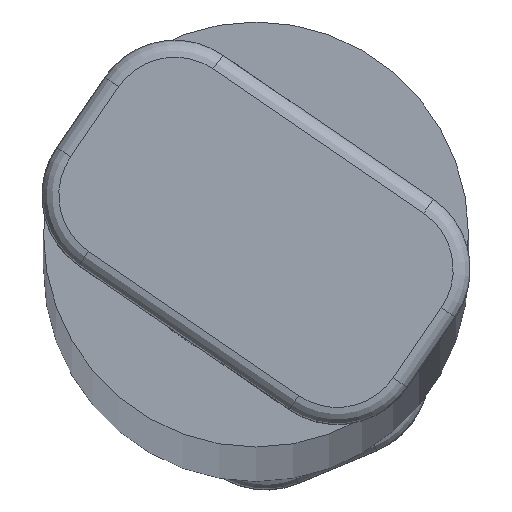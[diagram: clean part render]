
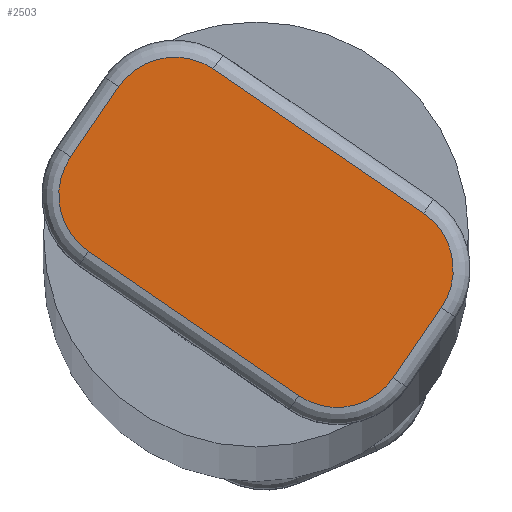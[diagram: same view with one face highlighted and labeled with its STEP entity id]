
A CAD part, top view. The second image highlights one B-rep face of the part: STEP entity #2503.
In plain terms, the highlighted planar face has unit normal (0, 0, 1).
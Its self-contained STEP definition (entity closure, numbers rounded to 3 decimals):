
#38 = DIRECTION ( 'NONE',  ( 0., 0., 1. ) ) ;
#80 = EDGE_LOOP ( 'NONE', ( #1879, #265, #1212, #2608, #1484, #508, #1052, #2310 ) ) ;
#121 = DIRECTION ( 'NONE',  ( 0.565, 0.825, 0. ) ) ;
#190 = DIRECTION ( 'NONE',  ( 0.565, 0.825, 0. ) ) ;
#265 = ORIENTED_EDGE ( 'NONE', *, *, #1591, .T. ) ;
#290 = VERTEX_POINT ( 'NONE', #1433 ) ;
#319 = VECTOR ( 'NONE', #2085, 1000. ) ;
#349 = EDGE_CURVE ( 'NONE', #684, #1910, #857, .T. ) ;
#390 = DIRECTION ( 'NONE',  ( 0., 0., 1. ) ) ;
#486 = AXIS2_PLACEMENT_3D ( 'NONE', #1798, #1394, #2607 ) ;
#508 = ORIENTED_EDGE ( 'NONE', *, *, #1226, .T. ) ;
#515 = VERTEX_POINT ( 'NONE', #724 ) ;
#527 = AXIS2_PLACEMENT_3D ( 'NONE', #1286, #38, #1690 ) ;
#640 = CARTESIAN_POINT ( 'NONE',  ( -3861.158, -163.527, 130.5 ) ) ;
#684 = VERTEX_POINT ( 'NONE', #1440 ) ;
#724 = CARTESIAN_POINT ( 'NONE',  ( -3861.158, -163.527, 130.5 ) ) ;
#742 = CARTESIAN_POINT ( 'NONE',  ( -3859.688, -161.382, 130.5 ) ) ;
#799 = EDGE_CURVE ( 'NONE', #1442, #684, #1955, .T. ) ;
#857 = CIRCLE ( 'NONE', #1324, 0.8 ) ;
#868 = LINE ( 'NONE', #640, #319 ) ;
#871 = VERTEX_POINT ( 'NONE', #2433 ) ;
#878 = DIRECTION ( 'NONE',  ( -0.825, 0.565, 0. ) ) ;
#957 = DIRECTION ( 'NONE',  ( 0., 0., 1. ) ) ;
#1044 = PLANE ( 'NONE',  #527 ) ;
#1052 = ORIENTED_EDGE ( 'NONE', *, *, #799, .T. ) ;
#1073 = AXIS2_PLACEMENT_3D ( 'NONE', #1210, #390, #1391 ) ;
#1122 = LINE ( 'NONE', #2545, #2447 ) ;
#1210 = CARTESIAN_POINT ( 'NONE',  ( -3862.615, -160.347, 130.5 ) ) ;
#1212 = ORIENTED_EDGE ( 'NONE', *, *, #2315, .T. ) ;
#1226 = EDGE_CURVE ( 'NONE', #871, #1442, #2059, .T. ) ;
#1241 = CARTESIAN_POINT ( 'NONE',  ( -3863.18, -161.171, 130.5 ) ) ;
#1269 = CARTESIAN_POINT ( 'NONE',  ( -3863.275, -159.894, 130.5 ) ) ;
#1286 = CARTESIAN_POINT ( 'NONE',  ( -3861.66, -161.607, 130.5 ) ) ;
#1288 = VECTOR ( 'NONE', #121, 1000. ) ;
#1324 = AXIS2_PLACEMENT_3D ( 'NONE', #1241, #2076, #2637 ) ;
#1391 = DIRECTION ( 'NONE',  ( 0.565, 0.825, 0. ) ) ;
#1394 = DIRECTION ( 'NONE',  ( 0., 0., 1. ) ) ;
#1433 = CARTESIAN_POINT ( 'NONE',  ( -3860.045, -163.319, 130.5 ) ) ;
#1440 = CARTESIAN_POINT ( 'NONE',  ( -3863.84, -160.719, 130.5 ) ) ;
#1442 = VERTEX_POINT ( 'NONE', #1269 ) ;
#1484 = ORIENTED_EDGE ( 'NONE', *, *, #1749, .T. ) ;
#1581 = DIRECTION ( 'NONE',  ( -0.565, -0.825, 0. ) ) ;
#1591 = EDGE_CURVE ( 'NONE', #515, #290, #1817, .T. ) ;
#1619 = CARTESIAN_POINT ( 'NONE',  ( -3860.705, -162.867, 130.5 ) ) ;
#1645 = EDGE_CURVE ( 'NONE', #1910, #515, #868, .T. ) ;
#1690 = DIRECTION ( 'NONE',  ( 0.565, 0.825, 0. ) ) ;
#1748 = CARTESIAN_POINT ( 'NONE',  ( -3863.558, -160.307, 130.5 ) ) ;
#1749 = EDGE_CURVE ( 'NONE', #2319, #871, #1122, .T. ) ;
#1798 = CARTESIAN_POINT ( 'NONE',  ( -3860.14, -162.042, 130.5 ) ) ;
#1817 = CIRCLE ( 'NONE', #1898, 0.8 ) ;
#1879 = ORIENTED_EDGE ( 'NONE', *, *, #1645, .T. ) ;
#1898 = AXIS2_PLACEMENT_3D ( 'NONE', #1619, #957, #190 ) ;
#1910 = VERTEX_POINT ( 'NONE', #2210 ) ;
#1955 = LINE ( 'NONE', #1748, #2484 ) ;
#1979 = EDGE_CURVE ( 'NONE', #2381, #2319, #2537, .T. ) ;
#2059 = CIRCLE ( 'NONE', #1073, 0.8 ) ;
#2076 = DIRECTION ( 'NONE',  ( 0., 0., 1. ) ) ;
#2085 = DIRECTION ( 'NONE',  ( 0.825, -0.565, 0. ) ) ;
#2161 = CARTESIAN_POINT ( 'NONE',  ( -3859.763, -162.907, 130.5 ) ) ;
#2187 = LINE ( 'NONE', #2161, #1288 ) ;
#2210 = CARTESIAN_POINT ( 'NONE',  ( -3863.632, -161.831, 130.5 ) ) ;
#2274 = FACE_OUTER_BOUND ( 'NONE', #80, .T. ) ;
#2310 = ORIENTED_EDGE ( 'NONE', *, *, #349, .T. ) ;
#2315 = EDGE_CURVE ( 'NONE', #290, #2381, #2187, .T. ) ;
#2319 = VERTEX_POINT ( 'NONE', #742 ) ;
#2381 = VERTEX_POINT ( 'NONE', #2561 ) ;
#2433 = CARTESIAN_POINT ( 'NONE',  ( -3862.163, -159.687, 130.5 ) ) ;
#2447 = VECTOR ( 'NONE', #878, 1000. ) ;
#2484 = VECTOR ( 'NONE', #1581, 1000. ) ;
#2503 = ADVANCED_FACE ( 'NONE', ( #2274 ), #1044, .T. ) ;
#2537 = CIRCLE ( 'NONE', #486, 0.8 ) ;
#2545 = CARTESIAN_POINT ( 'NONE',  ( -3862.163, -159.687, 130.5 ) ) ;
#2561 = CARTESIAN_POINT ( 'NONE',  ( -3859.48, -162.494, 130.5 ) ) ;
#2607 = DIRECTION ( 'NONE',  ( 0.565, 0.825, 0. ) ) ;
#2608 = ORIENTED_EDGE ( 'NONE', *, *, #1979, .T. ) ;
#2637 = DIRECTION ( 'NONE',  ( 0.565, 0.825, 0. ) ) ;
